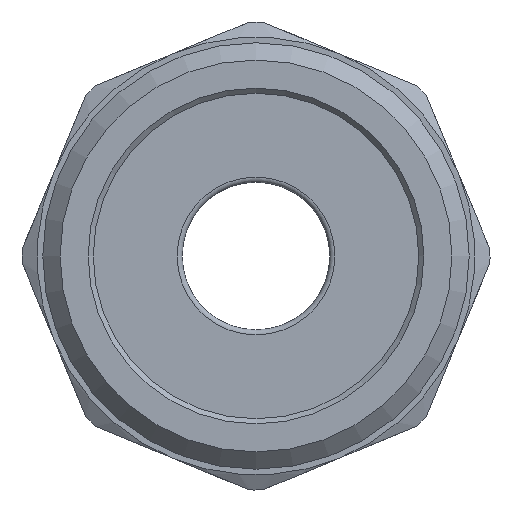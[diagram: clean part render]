
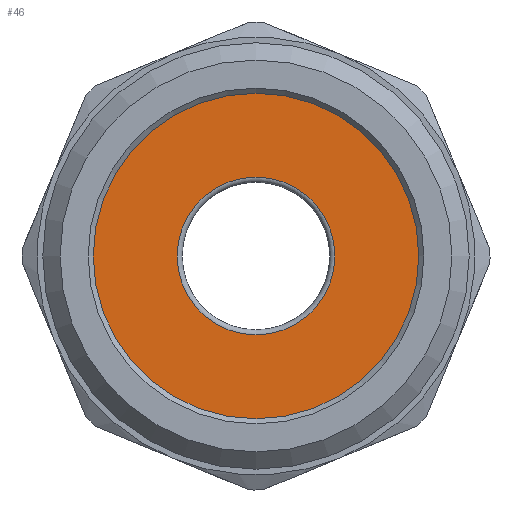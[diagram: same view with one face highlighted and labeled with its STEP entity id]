
A CAD part, front view. The second image highlights one B-rep face of the part: STEP entity #46.
In plain terms, the highlighted planar face has unit normal (0, -1, 0).
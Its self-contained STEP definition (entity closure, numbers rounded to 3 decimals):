
#46=ADVANCED_FACE('',(#103,#105),#107,.T.);
#103=FACE_BOUND('',#104,.T.);
#104=EDGE_LOOP('',(#404));
#105=FACE_BOUND('',#106,.T.);
#106=EDGE_LOOP('',(#405));
#107=PLANE('',#108);
#108=AXIS2_PLACEMENT_3D('',#109,#110,#111);
#109=CARTESIAN_POINT('',(0.,2.5,0.));
#110=DIRECTION('',(0.,-1.,0.));
#111=DIRECTION('',(1.,0.,0.));
#404=ORIENTED_EDGE('',*,*,#570,.T.);
#405=ORIENTED_EDGE('',*,*,#571,.F.);
#570=EDGE_CURVE('',#657,#657,#658,.T.);
#571=EDGE_CURVE('',#659,#659,#660,.F.);
#657=VERTEX_POINT('',#808);
#658=CIRCLE('',#809,16.);
#659=VERTEX_POINT('',#813);
#660=CIRCLE('',#814,7.75);
#808=CARTESIAN_POINT('',(16.,2.5,0.));
#809=AXIS2_PLACEMENT_3D('',#810,#811,#812);
#810=CARTESIAN_POINT('',(0.,2.5,0.));
#811=DIRECTION('',(0.,-1.,0.));
#812=DIRECTION('',(1.,0.,0.));
#813=CARTESIAN_POINT('',(-7.75,2.5,0.));
#814=AXIS2_PLACEMENT_3D('',#815,#816,#817);
#815=CARTESIAN_POINT('',(0.,2.5,0.));
#816=DIRECTION('',(0.,1.,0.));
#817=DIRECTION('',(-1.,0.,0.));
